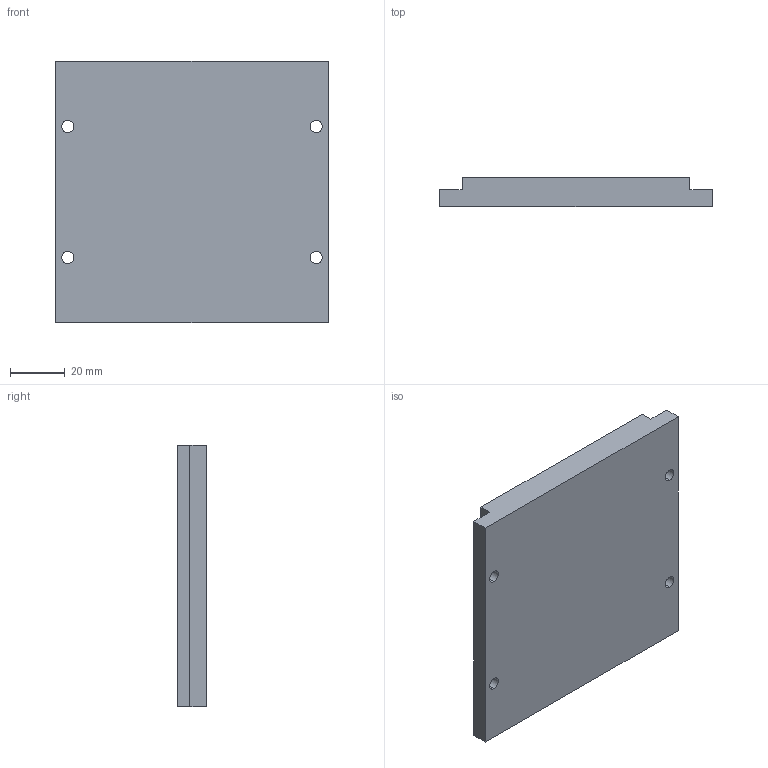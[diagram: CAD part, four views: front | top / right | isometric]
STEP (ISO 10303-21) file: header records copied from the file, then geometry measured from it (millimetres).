
FILE_DESCRIPTION (( 'STEP AP214' ), '1' );
FILE_NAME ('TLT-100-L96.STEP', '2022-04-13T09:27:47', ( 'Microsoft' ), ( 'Microsoft' ), 'SwSTEP 2.0', 'SolidWorks 2016', '' );
FILE_SCHEMA (( 'AUTOMOTIVE_DESIGN' ));
Length unit declared in the file: millimetre
Products named in the file (1): TLT-100-L96
Bounding box: 100 x 10.5 x 96 mm (x, y, z)
Volume: 93290.3 mm3; surface area: 23379.6 mm2
Topology: 1 solids, 1 shells, 18 faces, 48 edges, 32 vertices
Faces by surface type: plane 10, cylinder 8
Entity records: 618 total; most frequent: DIRECTION 102, CARTESIAN_POINT 99, ORIENTED_EDGE 96, EDGE_CURVE 48, AXIS2_PLACEMENT_3D 35, VECTOR 32, VERTEX_POINT 32, LINE 32
